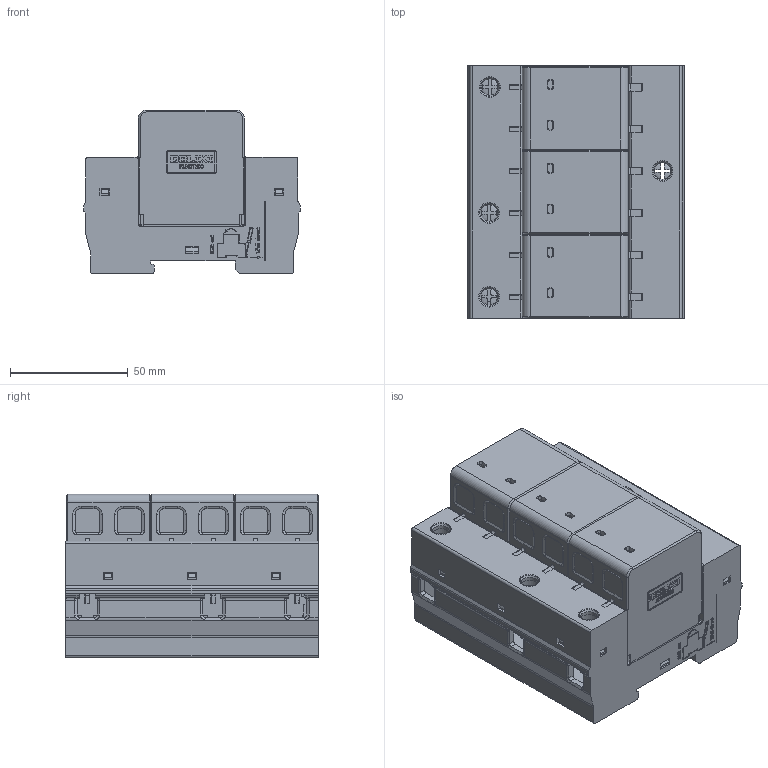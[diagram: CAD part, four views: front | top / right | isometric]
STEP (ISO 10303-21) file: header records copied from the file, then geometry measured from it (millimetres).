
FILE_DESCRIPTION((''),'2;1');
FILE_NAME('3P120_ASM','2024-01-17T',('linxiao.guan'),(''),'PRO/ENGINEER BY PARAMETRIC TECHNOLOGY CORPORATION, 2015440','PRO/ENGINEER BY PARAMETRIC TECHNOLOGY CORPORATION, 2015440','');
FILE_SCHEMA(('CONFIG_CONTROL_DESIGN'));
Products named in the file (22): BREP_WITH_VOIDS_184610_AF0; MANIFOLD_SOLID_BREP_184841; MANIFOLD_SOLID_BREP_185072; MANIFOLD_SOLID_BREP_185303; MANIFOLD_SOLID_BREP_185534; MANIFOLD_SOLID_BREP_185765; MANIFOLD_SOLID_BREP_186198; MANIFOLD_SOLID_BREP_186631; MANIFOLD_SOLID_BREP_187143; MANIFOLD_SOLID_BREP_187513; MANIFOLD_SOLID_BREP_188501; MANIFOLD_SOLID_BREP_188632; MANIFOLD_SOLID_BREP_188763; MANIFOLD_SOLID_BREP_189133; MANIFOLD_SOLID_BREP_189503; MANIFOLD_SOLID_BREP_189873; MANIFOLD_SOLID_BREP_190243; MANIFOLD_SOLID_BREP_190595_AF0; MANIFOLD_SOLID_BREP_190747_AF0; ASM0034_SW0001_1_AF0_ASM; 8005034000_1; 3P120_ASM
Assembly tree (23 placements, depth 3):
  3P120_ASM
    ASM0034_SW0001_1_AF0_ASM
      BREP_WITH_VOIDS_184610_AF0
      MANIFOLD_SOLID_BREP_184841
      MANIFOLD_SOLID_BREP_185072
      MANIFOLD_SOLID_BREP_185303
      MANIFOLD_SOLID_BREP_185534
      MANIFOLD_SOLID_BREP_185765
      MANIFOLD_SOLID_BREP_186198
      MANIFOLD_SOLID_BREP_186631
      MANIFOLD_SOLID_BREP_187143
      MANIFOLD_SOLID_BREP_187513
      MANIFOLD_SOLID_BREP_188501
      MANIFOLD_SOLID_BREP_188632
      MANIFOLD_SOLID_BREP_188763
      MANIFOLD_SOLID_BREP_189133
      MANIFOLD_SOLID_BREP_189503
      MANIFOLD_SOLID_BREP_189873
      MANIFOLD_SOLID_BREP_190243
      MANIFOLD_SOLID_BREP_190595_AF0
      MANIFOLD_SOLID_BREP_190747_AF0
    8005034000_1  x3
Bounding box: 92 x 107.2 x 69.5 mm (x, y, z)
Volume: 134503.9 mm3; surface area: 162683.2 mm2
Topology: 20 solids, 22 shells, 5996 faces, 17225 edges, 11371 vertices
Faces by surface type: plane 5294, cylinder 517, cone 108, torus 42, sphere 27, bspline 8
Entity records: 144063 total; most frequent: CARTESIAN_POINT 27301, ORIENTED_EDGE 25444, DIRECTION 22245, EDGE_CURVE 12722, VECTOR 11421, LINE 11421, VERTEX_POINT 8403, AXIS2_PLACEMENT_3D 5412
